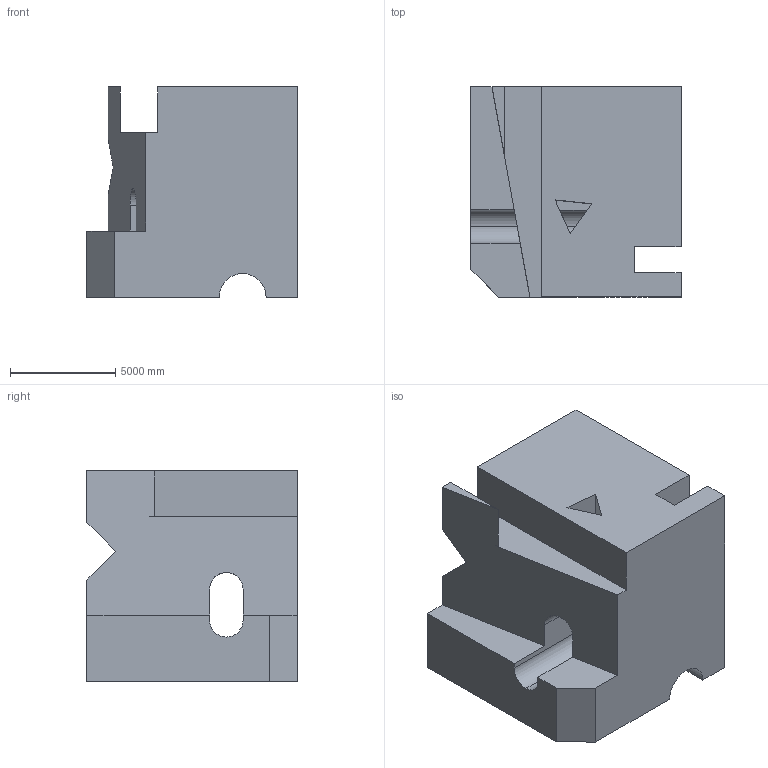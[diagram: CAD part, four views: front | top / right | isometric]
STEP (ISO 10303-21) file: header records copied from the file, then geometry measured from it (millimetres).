
FILE_DESCRIPTION (( 'STEP AP203' ), '1' );
FILE_NAME ('143.STEP', '2022-08-31T11:53:07', ( 'user' ), ( '' ), 'SwSTEP 2.0', 'SolidWorks 2021', '' );
FILE_SCHEMA (( 'CONFIG_CONTROL_DESIGN' ));
Length unit declared in the file: centimetre
Products named in the file (1): 143
Bounding box: 10000 x 10000 x 10000 mm (x, y, z)
Volume: 727933280421.3 mm3; surface area: 714518551.1 mm2
Topology: 1 solids, 1 shells, 34 faces, 102 edges, 68 vertices
Faces by surface type: plane 30, cylinder 4
Entity records: 1220 total; most frequent: CARTESIAN_POINT 220, ORIENTED_EDGE 204, DIRECTION 176, EDGE_CURVE 102, VECTOR 88, LINE 88, VERTEX_POINT 68, AXIS2_PLACEMENT_3D 44
